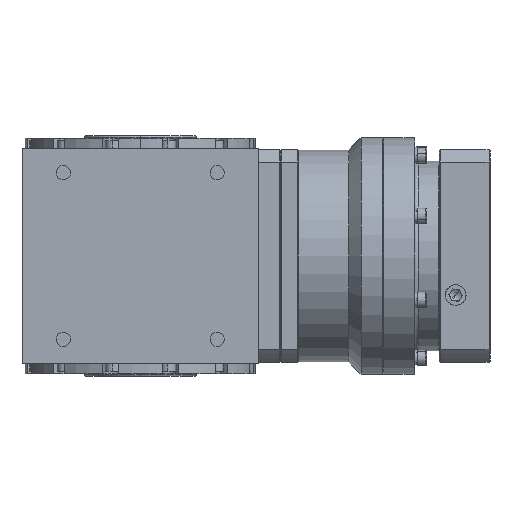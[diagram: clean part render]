
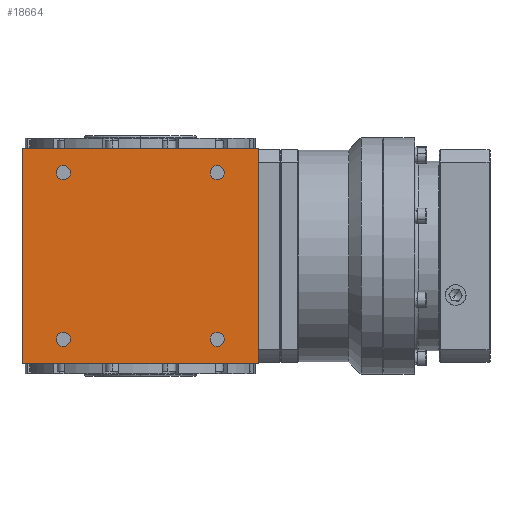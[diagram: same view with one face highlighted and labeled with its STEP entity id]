
A CAD part, left-side view. The second image highlights one B-rep face of the part: STEP entity #18664.
In plain terms, the highlighted planar face has unit normal (-1, 0, 0).
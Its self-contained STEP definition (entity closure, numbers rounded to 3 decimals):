
#132 = DIRECTION ( 'NONE',  ( 1., 0., 0. ) ) ;
#1168 = LINE ( 'NONE', #10126, #36113 ) ;
#1297 = AXIS2_PLACEMENT_3D ( 'NONE', #26853, #132, #29331 ) ;
#1557 = CARTESIAN_POINT ( 'NONE',  ( -100., 100., -91. ) ) ;
#1608 = CARTESIAN_POINT ( 'NONE',  ( -100., -71., 70.5 ) ) ;
#3165 = DIRECTION ( 'NONE',  ( 1., 0., 0. ) ) ;
#4314 = DIRECTION ( 'NONE',  ( 0., -1., 0. ) ) ;
#4569 = ORIENTED_EDGE ( 'NONE', *, *, #26859, .T. ) ;
#4753 = ORIENTED_EDGE ( 'NONE', *, *, #16122, .T. ) ;
#4879 = CIRCLE ( 'NONE', #24354, 6. ) ;
#4975 = DIRECTION ( 'NONE',  ( 1., 0., 0. ) ) ;
#5089 = CARTESIAN_POINT ( 'NONE',  ( -100., -100., -91. ) ) ;
#5473 = FACE_BOUND ( 'NONE', #15753, .T. ) ;
#5521 = VERTEX_POINT ( 'NONE', #12612 ) ;
#5697 = EDGE_CURVE ( 'NONE', #12159, #21444, #11139, .T. ) ;
#5776 = CARTESIAN_POINT ( 'NONE',  ( -100., 100., -91. ) ) ;
#6312 = VERTEX_POINT ( 'NONE', #37241 ) ;
#6590 = LINE ( 'NONE', #9648, #37552 ) ;
#7260 = EDGE_CURVE ( 'NONE', #21526, #33821, #26214, .T. ) ;
#7409 = VERTEX_POINT ( 'NONE', #33062 ) ;
#7418 = DIRECTION ( 'NONE',  ( 0., -1., 0. ) ) ;
#7432 = DIRECTION ( 'NONE',  ( 0., -1., 0. ) ) ;
#7797 = EDGE_CURVE ( 'NONE', #33495, #24222, #34631, .T. ) ;
#8144 = AXIS2_PLACEMENT_3D ( 'NONE', #8204, #4975, #34763 ) ;
#8168 = CARTESIAN_POINT ( 'NONE',  ( -100., -65., 70.5 ) ) ;
#8204 = CARTESIAN_POINT ( 'NONE',  ( -100., 65., -70.5 ) ) ;
#8521 = PLANE ( 'NONE',  #12447 ) ;
#9535 = EDGE_LOOP ( 'NONE', ( #27058, #4753 ) ) ;
#9648 = CARTESIAN_POINT ( 'NONE',  ( -100., -100., -91. ) ) ;
#9816 = EDGE_CURVE ( 'NONE', #23925, #6312, #4879, .T. ) ;
#9821 = AXIS2_PLACEMENT_3D ( 'NONE', #8168, #24978, #7418 ) ;
#9904 = ORIENTED_EDGE ( 'NONE', *, *, #11389, .T. ) ;
#10126 = CARTESIAN_POINT ( 'NONE',  ( -100., 100., -91. ) ) ;
#10386 = CARTESIAN_POINT ( 'NONE',  ( -100., 65., 70.5 ) ) ;
#10667 = CARTESIAN_POINT ( 'NONE',  ( -100., 100., 91. ) ) ;
#10827 = FACE_OUTER_BOUND ( 'NONE', #37038, .T. ) ;
#11139 = CIRCLE ( 'NONE', #25159, 6. ) ;
#11389 = EDGE_CURVE ( 'NONE', #21444, #12159, #15333, .T. ) ;
#12021 = VECTOR ( 'NONE', #32319, 1000. ) ;
#12159 = VERTEX_POINT ( 'NONE', #1608 ) ;
#12169 = ORIENTED_EDGE ( 'NONE', *, *, #30078, .T. ) ;
#12447 = AXIS2_PLACEMENT_3D ( 'NONE', #34114, #16368, #36771 ) ;
#12612 = CARTESIAN_POINT ( 'NONE',  ( -100., -71., -70.5 ) ) ;
#13077 = ORIENTED_EDGE ( 'NONE', *, *, #9816, .T. ) ;
#15333 = CIRCLE ( 'NONE', #9821, 6. ) ;
#15753 = EDGE_LOOP ( 'NONE', ( #13077, #33757 ) ) ;
#16122 = EDGE_CURVE ( 'NONE', #24222, #33495, #36362, .T. ) ;
#16144 = CARTESIAN_POINT ( 'NONE',  ( -100., -65., -70.5 ) ) ;
#16368 = DIRECTION ( 'NONE',  ( -1., 0., 0. ) ) ;
#16439 = EDGE_CURVE ( 'NONE', #16524, #21526, #20673, .T. ) ;
#16524 = VERTEX_POINT ( 'NONE', #1557 ) ;
#16632 = EDGE_LOOP ( 'NONE', ( #19133, #9904 ) ) ;
#17728 = ORIENTED_EDGE ( 'NONE', *, *, #32692, .T. ) ;
#18385 = CIRCLE ( 'NONE', #1297, 6. ) ;
#18517 = CARTESIAN_POINT ( 'NONE',  ( -100., 65., 70.5 ) ) ;
#18664 = ADVANCED_FACE ( 'NONE', ( #22461, #5473, #34691, #36965, #10827 ), #8521, .T. ) ;
#19133 = ORIENTED_EDGE ( 'NONE', *, *, #5697, .T. ) ;
#20673 = LINE ( 'NONE', #5776, #12021 ) ;
#21444 = VERTEX_POINT ( 'NONE', #36635 ) ;
#21526 = VERTEX_POINT ( 'NONE', #10667 ) ;
#22434 = DIRECTION ( 'NONE',  ( 1., 0., 0. ) ) ;
#22461 = FACE_BOUND ( 'NONE', #36802, .T. ) ;
#23195 = VERTEX_POINT ( 'NONE', #5089 ) ;
#23925 = VERTEX_POINT ( 'NONE', #28439 ) ;
#24151 = ORIENTED_EDGE ( 'NONE', *, *, #7260, .F. ) ;
#24222 = VERTEX_POINT ( 'NONE', #36052 ) ;
#24317 = CIRCLE ( 'NONE', #24952, 6. ) ;
#24346 = ORIENTED_EDGE ( 'NONE', *, *, #16439, .F. ) ;
#24354 = AXIS2_PLACEMENT_3D ( 'NONE', #31987, #3165, #31807 ) ;
#24539 = EDGE_CURVE ( 'NONE', #7409, #5521, #18385, .T. ) ;
#24882 = DIRECTION ( 'NONE',  ( 1., 0., 0. ) ) ;
#24952 = AXIS2_PLACEMENT_3D ( 'NONE', #16144, #22434, #4314 ) ;
#24978 = DIRECTION ( 'NONE',  ( 1., 0., 0. ) ) ;
#25159 = AXIS2_PLACEMENT_3D ( 'NONE', #33600, #31281, #7432 ) ;
#26214 = LINE ( 'NONE', #32504, #30605 ) ;
#26853 = CARTESIAN_POINT ( 'NONE',  ( -100., -65., -70.5 ) ) ;
#26859 = EDGE_CURVE ( 'NONE', #16524, #23195, #1168, .T. ) ;
#27058 = ORIENTED_EDGE ( 'NONE', *, *, #7797, .T. ) ;
#27477 = DIRECTION ( 'NONE',  ( 1., 0., 0. ) ) ;
#27564 = DIRECTION ( 'NONE',  ( 0., -1., 0. ) ) ;
#27834 = AXIS2_PLACEMENT_3D ( 'NONE', #10386, #24882, #27564 ) ;
#28119 = EDGE_CURVE ( 'NONE', #6312, #23925, #36198, .T. ) ;
#28439 = CARTESIAN_POINT ( 'NONE',  ( -100., 59., -70.5 ) ) ;
#29331 = DIRECTION ( 'NONE',  ( 0., -1., 0. ) ) ;
#29956 = DIRECTION ( 'NONE',  ( 0., -1., 0. ) ) ;
#30061 = DIRECTION ( 'NONE',  ( 0., 0., 1. ) ) ;
#30078 = EDGE_CURVE ( 'NONE', #23195, #33821, #6590, .T. ) ;
#30605 = VECTOR ( 'NONE', #32126, 1000. ) ;
#31281 = DIRECTION ( 'NONE',  ( 1., 0., 0. ) ) ;
#31807 = DIRECTION ( 'NONE',  ( 0., -1., 0. ) ) ;
#31987 = CARTESIAN_POINT ( 'NONE',  ( -100., 65., -70.5 ) ) ;
#32126 = DIRECTION ( 'NONE',  ( 0., -1., 0. ) ) ;
#32319 = DIRECTION ( 'NONE',  ( 0., 0., 1. ) ) ;
#32504 = CARTESIAN_POINT ( 'NONE',  ( -100., 0., 91. ) ) ;
#32692 = EDGE_CURVE ( 'NONE', #5521, #7409, #24317, .T. ) ;
#32851 = DIRECTION ( 'NONE',  ( 0., -1., 0. ) ) ;
#33062 = CARTESIAN_POINT ( 'NONE',  ( -100., -59., -70.5 ) ) ;
#33495 = VERTEX_POINT ( 'NONE', #34025 ) ;
#33600 = CARTESIAN_POINT ( 'NONE',  ( -100., -65., 70.5 ) ) ;
#33753 = ORIENTED_EDGE ( 'NONE', *, *, #24539, .T. ) ;
#33757 = ORIENTED_EDGE ( 'NONE', *, *, #28119, .T. ) ;
#33821 = VERTEX_POINT ( 'NONE', #34177 ) ;
#34025 = CARTESIAN_POINT ( 'NONE',  ( -100., 59., 70.5 ) ) ;
#34114 = CARTESIAN_POINT ( 'NONE',  ( -100., 100., -91. ) ) ;
#34177 = CARTESIAN_POINT ( 'NONE',  ( -100., -100., 91. ) ) ;
#34631 = CIRCLE ( 'NONE', #37121, 6. ) ;
#34691 = FACE_BOUND ( 'NONE', #9535, .T. ) ;
#34763 = DIRECTION ( 'NONE',  ( 0., -1., 0. ) ) ;
#36052 = CARTESIAN_POINT ( 'NONE',  ( -100., 71., 70.5 ) ) ;
#36113 = VECTOR ( 'NONE', #32851, 1000. ) ;
#36198 = CIRCLE ( 'NONE', #8144, 6. ) ;
#36362 = CIRCLE ( 'NONE', #27834, 6. ) ;
#36635 = CARTESIAN_POINT ( 'NONE',  ( -100., -59., 70.5 ) ) ;
#36771 = DIRECTION ( 'NONE',  ( 0., -1., 0. ) ) ;
#36802 = EDGE_LOOP ( 'NONE', ( #17728, #33753 ) ) ;
#36965 = FACE_BOUND ( 'NONE', #16632, .T. ) ;
#37038 = EDGE_LOOP ( 'NONE', ( #12169, #24151, #24346, #4569 ) ) ;
#37121 = AXIS2_PLACEMENT_3D ( 'NONE', #18517, #27477, #29956 ) ;
#37241 = CARTESIAN_POINT ( 'NONE',  ( -100., 71., -70.5 ) ) ;
#37552 = VECTOR ( 'NONE', #30061, 1000. ) ;
